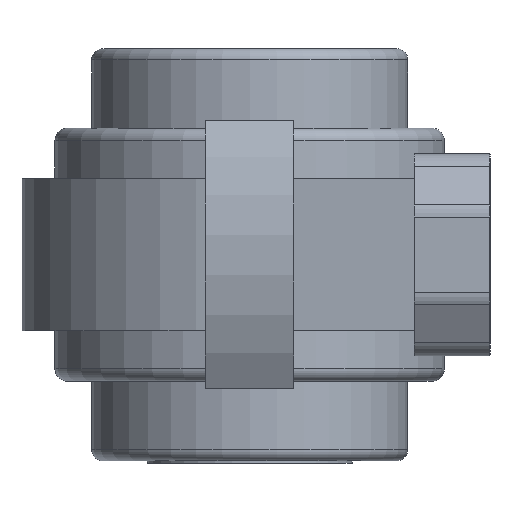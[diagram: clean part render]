
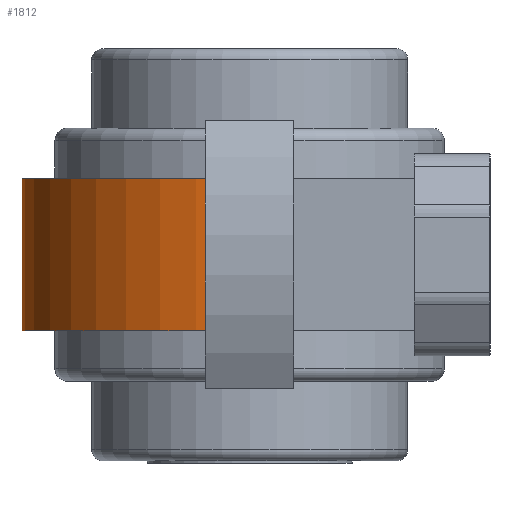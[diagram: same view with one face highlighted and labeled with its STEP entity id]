
A CAD part, left-side view. The second image highlights one B-rep face of the part: STEP entity #1812.
In plain terms, the highlighted cylindrical face has radius 18 mm (diameter 36 mm), a partial arc.
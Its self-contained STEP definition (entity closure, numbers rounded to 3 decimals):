
#1309=CARTESIAN_POINT('',(-17.952,1.314,-6.));
#1310=VERTEX_POINT('',#1309);
#1317=CARTESIAN_POINT('',(17.952,1.314,-6.));
#1318=VERTEX_POINT('',#1317);
#1319=CARTESIAN_POINT('',(0.0,0.0,-6.));
#1320=DIRECTION('',(0.0,0.0,1.0));
#1321=DIRECTION('',(0.997,0.073,0.0));
#1322=AXIS2_PLACEMENT_3D('',#1319,#1320,#1321);
#1323=CIRCLE('',#1322,18.);
#1324=EDGE_CURVE('',#1318,#1310,#1323,.T.);
#1656=CARTESIAN_POINT('',(17.952,1.314,6.));
#1657=VERTEX_POINT('',#1656);
#1664=CARTESIAN_POINT('',(-17.952,1.314,6.));
#1665=VERTEX_POINT('',#1664);
#1666=CARTESIAN_POINT('',(0.0,0.0,6.));
#1667=DIRECTION('',(0.0,0.0,-1.0));
#1668=DIRECTION('',(0.997,0.073,0.0));
#1669=AXIS2_PLACEMENT_3D('',#1666,#1667,#1668);
#1670=CIRCLE('',#1669,18.);
#1671=EDGE_CURVE('',#1665,#1657,#1670,.T.);
#1774=CARTESIAN_POINT('',(17.952,1.314,-6.));
#1775=DIRECTION('',(0.0,0.0,1.0));
#1776=VECTOR('',#1775,12.);
#1777=LINE('',#1774,#1776);
#1778=EDGE_CURVE('',#1318,#1657,#1777,.T.);
#1791=CARTESIAN_POINT('',(-17.952,1.314,-6.));
#1792=DIRECTION('',(0.0,0.0,1.0));
#1793=VECTOR('',#1792,12.);
#1794=LINE('',#1791,#1793);
#1795=EDGE_CURVE('',#1310,#1665,#1794,.T.);
#1801=CARTESIAN_POINT('',(0.0,0.0,0.0));
#1802=DIRECTION('',(0.0,0.0,1.0));
#1803=DIRECTION('',(0.997,0.073,0.0));
#1804=AXIS2_PLACEMENT_3D('',#1801,#1802,#1803);
#1805=CYLINDRICAL_SURFACE('',#1804,18.0);
#1806=ORIENTED_EDGE('',*,*,#1671,.T.);
#1807=ORIENTED_EDGE('',*,*,#1778,.F.);
#1808=ORIENTED_EDGE('',*,*,#1324,.T.);
#1809=ORIENTED_EDGE('',*,*,#1795,.T.);
#1810=EDGE_LOOP('',(#1806,#1807,#1808,#1809));
#1811=FACE_OUTER_BOUND('',#1810,.T.);
#1812=ADVANCED_FACE('',(#1811),#1805,.T.);
